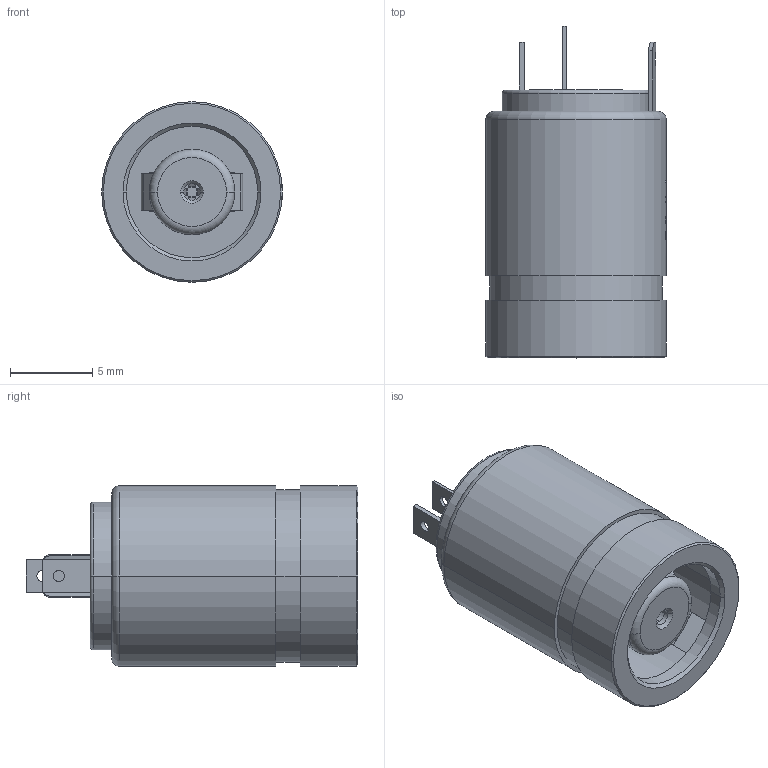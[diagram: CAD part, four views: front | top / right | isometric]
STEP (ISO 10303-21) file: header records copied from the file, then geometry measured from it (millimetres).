
FILE_DESCRIPTION((''),'2;1');
FILE_NAME('S026A','2023-09-10T',('WYH'),(''),'PRO/ENGINEER BY PARAMETRIC TECHNOLOGY CORPORATION, 2013040','PRO/ENGINEER BY PARAMETRIC TECHNOLOGY CORPORATION, 2013040','');
FILE_SCHEMA(('CONFIG_CONTROL_DESIGN'));
Length unit declared in the file: millimetre
Products named in the file (1): S026A
Bounding box: 11 x 20.2 x 11 mm (x, y, z)
Volume: 973.7 mm3; surface area: 1571.2 mm2
Topology: 1 solids, 1 shells, 610 faces, 1727 edges, 1148 vertices
Faces by surface type: plane 519, cylinder 79, cone 6, torus 6
Entity records: 19749 total; most frequent: CARTESIAN_POINT 4155, ORIENTED_EDGE 3454, DIRECTION 2894, EDGE_CURVE 1727, VECTOR 1218, LINE 1218, VERTEX_POINT 1148, AXIS2_PLACEMENT_3D 838
